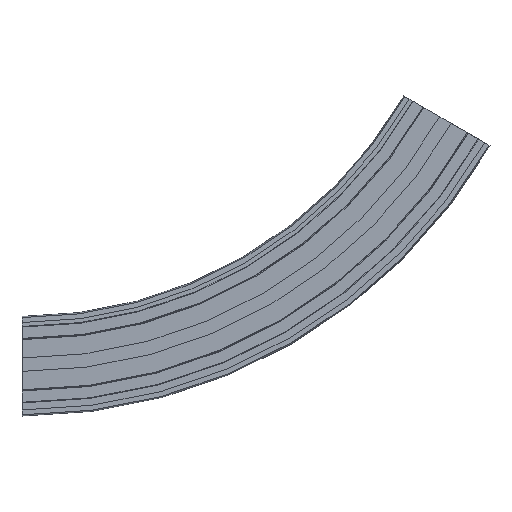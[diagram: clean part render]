
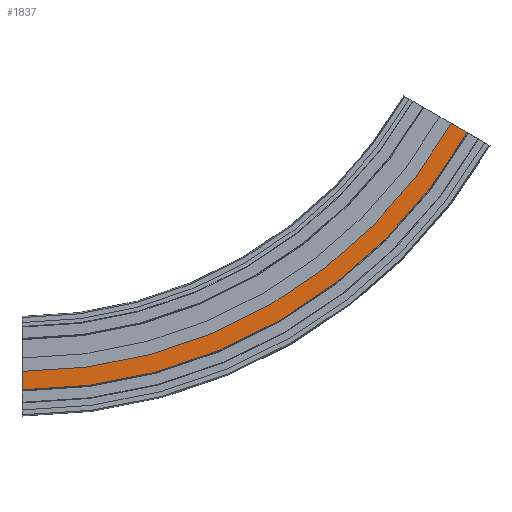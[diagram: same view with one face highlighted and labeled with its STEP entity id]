
A CAD part, front view. The second image highlights one B-rep face of the part: STEP entity #1837.
In plain terms, the highlighted planar face has unit normal (0, -1, 0).
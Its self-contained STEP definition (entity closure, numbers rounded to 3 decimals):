
#1779=CARTESIAN_POINT('',(364.164,-43.0,150.25));
#1780=VERTEX_POINT('',#1779);
#1787=CARTESIAN_POINT('',(0.0,-43.0,-60.));
#1788=VERTEX_POINT('',#1787);
#1789=CARTESIAN_POINT('',(0.,-43.0,360.5));
#1790=DIRECTION('',(0.0,-1.,0.0));
#1791=DIRECTION('',(-0.866,0.0,0.5));
#1792=AXIS2_PLACEMENT_3D('',#1789,#1790,#1791);
#1793=CIRCLE('',#1792,420.5);
#1794=EDGE_CURVE('',#1788,#1780,#1793,.T.);
#1806=CARTESIAN_POINT('',(0.0,-43.0,-52.5));
#1807=DIRECTION('',(0.0,-1.0,0.0));
#1808=DIRECTION('',(0.0,0.0,-1.0));
#1809=AXIS2_PLACEMENT_3D('',#1806,#1807,#1808);
#1810=PLANE('',#1809);
#1811=CARTESIAN_POINT('',(351.173,-43.0,157.75));
#1812=VERTEX_POINT('',#1811);
#1813=CARTESIAN_POINT('',(364.164,-43.0,150.25));
#1814=DIRECTION('',(-0.866,0.0,0.5));
#1815=VECTOR('',#1814,15.0);
#1816=LINE('',#1813,#1815);
#1817=EDGE_CURVE('',#1780,#1812,#1816,.T.);
#1818=ORIENTED_EDGE('',*,*,#1817,.T.);
#1819=CARTESIAN_POINT('',(0.0,-43.0,-45.));
#1820=VERTEX_POINT('',#1819);
#1821=CARTESIAN_POINT('',(0.,-43.0,360.5));
#1822=DIRECTION('',(0.0,-1.,0.0));
#1823=DIRECTION('',(-0.866,0.0,0.5));
#1824=AXIS2_PLACEMENT_3D('',#1821,#1822,#1823);
#1825=CIRCLE('',#1824,405.5);
#1826=EDGE_CURVE('',#1820,#1812,#1825,.T.);
#1827=ORIENTED_EDGE('',*,*,#1826,.F.);
#1828=CARTESIAN_POINT('',(0.0,-43.0,-45.));
#1829=DIRECTION('',(0.0,0.0,-1.0));
#1830=VECTOR('',#1829,15.0);
#1831=LINE('',#1828,#1830);
#1832=EDGE_CURVE('',#1820,#1788,#1831,.T.);
#1833=ORIENTED_EDGE('',*,*,#1832,.T.);
#1834=ORIENTED_EDGE('',*,*,#1794,.T.);
#1835=EDGE_LOOP('',(#1818,#1827,#1833,#1834));
#1836=FACE_OUTER_BOUND('',#1835,.T.);
#1837=ADVANCED_FACE('',(#1836),#1810,.T.);
